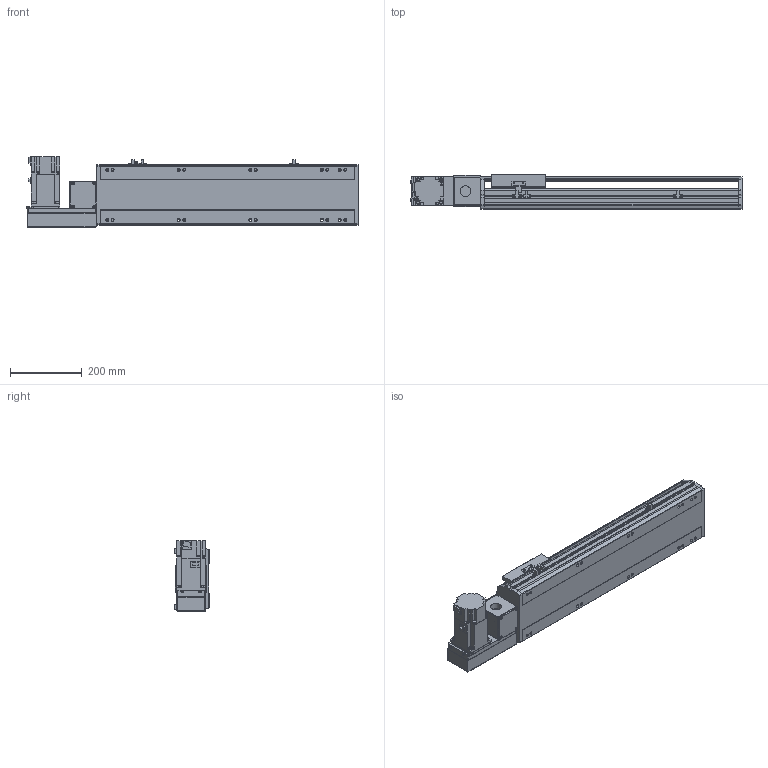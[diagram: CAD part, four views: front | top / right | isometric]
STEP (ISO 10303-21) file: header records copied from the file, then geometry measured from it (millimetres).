
FILE_DESCRIPTION( ( 'STEP AP214' ), '1' );
FILE_NAME( 'x:/temp/worker_4/temp/exporttempdir_2248_195_bc51g/format_0/PBS170-P40-S450-L-T75-C1-N(0).stp', '2022-06-07T06:33:54', ( 'License CC BY-ND 4.0' ), ( 'CADENAS' ), ' ', 'PARTsolutions', ' ' );
FILE_SCHEMA( ( 'AUTOMOTIVE_DESIGN { 1 0 10303 214 1 1 1 1 }' ) );
Length unit declared in the file: millimetre
Products named in the file (7): PBS170-P40-S450-L-T75-C1-N(0); _PBS170-S450()_body; _PBS170T-L_motors; _T75-p1; _PBS170_sliser; _PBS170_plant; _PBS170_sensor
Assembly tree (8 placements, depth 2):
  PBS170-P40-S450-L-T75-C1-N(0)
    _PBS170-S450()_body
    _PBS170T-L_motors
    _T75-p1
    _PBS170_sliser
    _PBS170_plant
    _PBS170_sensor  x3
Bounding box: 928 x 97 x 197.3 mm (x, y, z)
Volume: 7068767.7 mm3; surface area: 968427.7 mm2
Topology: 8 solids, 8 shells, 1034 faces, 2755 edges, 1796 vertices
Faces by surface type: plane 669, cylinder 315, cone 40, sphere 8, torus 2
Full cylindrical faces by diameter (mm): 3.242 x4, 4 x2, 4.4 x4, 4.5 x6, 4.917 x4, 6 x9, 6.647 x18, 7 x2, 7.5 x4, 8 x8, 8.5 x10, 10 x4, 10.5 x10, 11 x2, 30 x2, 40 x1, 70 x1
Entity records: 37814 total; most frequent: CARTESIAN_POINT 5717, DIRECTION 5090, ORIENTED_EDGE 4848, EDGE_CURVE 2424, AXIS2_PLACEMENT_3D 1747, VERTEX_POINT 1658, LINE 1596, VECTOR 1596
